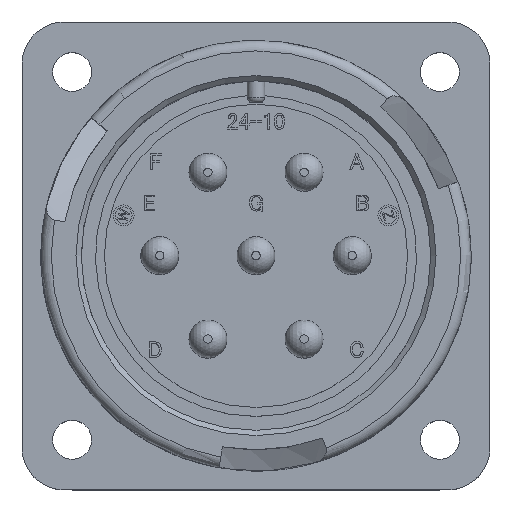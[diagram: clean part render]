
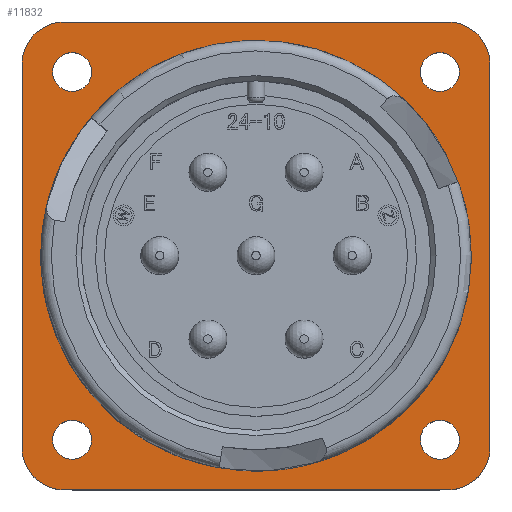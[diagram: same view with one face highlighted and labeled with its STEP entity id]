
A CAD part, top view. The second image highlights one B-rep face of the part: STEP entity #11832.
In plain terms, the highlighted planar face has unit normal (0, 0, 1).
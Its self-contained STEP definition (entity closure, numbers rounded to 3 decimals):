
#3 = FACE_BOUND ( 'NONE', #6910, .T. ) ;
#346 = CIRCLE ( 'NONE', #14573, 1.85 ) ;
#501 = LINE ( 'NONE', #6960, #10947 ) ;
#613 = FACE_BOUND ( 'NONE', #7057, .T. ) ;
#938 = AXIS2_PLACEMENT_3D ( 'NONE', #10465, #12456, #10556 ) ;
#1141 = ORIENTED_EDGE ( 'NONE', *, *, #6772, .F. ) ;
#1646 = VERTEX_POINT ( 'NONE', #9785 ) ;
#1664 = AXIS2_PLACEMENT_3D ( 'NONE', #13479, #18952, #17066 ) ;
#1727 = EDGE_CURVE ( 'NONE', #16201, #23448, #14136, .T. ) ;
#1795 = ORIENTED_EDGE ( 'NONE', *, *, #22677, .F. ) ;
#2254 = ORIENTED_EDGE ( 'NONE', *, *, #16764, .F. ) ;
#2387 = DIRECTION ( 'NONE',  ( 0., 0., -1. ) ) ;
#2470 = CARTESIAN_POINT ( 'NONE',  ( -17.465, -17.465, -20.8 ) ) ;
#2557 = LINE ( 'NONE', #18801, #6243 ) ;
#2987 = EDGE_CURVE ( 'NONE', #18734, #16201, #10078, .T. ) ;
#3077 = CARTESIAN_POINT ( 'NONE',  ( -18.225, -22.225, -20.8 ) ) ;
#3166 = CIRCLE ( 'NONE', #21993, 1.85 ) ;
#3573 = DIRECTION ( 'NONE',  ( -1., 0., 0. ) ) ;
#3741 = LINE ( 'NONE', #6941, #4076 ) ;
#4076 = VECTOR ( 'NONE', #24672, 1000. ) ;
#4189 = CIRCLE ( 'NONE', #24416, 1.85 ) ;
#4319 = CARTESIAN_POINT ( 'NONE',  ( 18.225, 22.225, -20.8 ) ) ;
#4325 = DIRECTION ( 'NONE',  ( -1., 0., 0. ) ) ;
#4597 = EDGE_LOOP ( 'NONE', ( #17977, #25464, #7663, #8265, #20303, #11459, #1141, #8194 ) ) ;
#4731 = CARTESIAN_POINT ( 'NONE',  ( -19.315, 17.465, -20.8 ) ) ;
#4780 = EDGE_CURVE ( 'NONE', #10850, #19845, #501, .T. ) ;
#5013 = VERTEX_POINT ( 'NONE', #18022 ) ;
#5049 = EDGE_CURVE ( 'NONE', #13835, #18047, #22316, .T. ) ;
#5846 = FACE_BOUND ( 'NONE', #23379, .T. ) ;
#6243 = VECTOR ( 'NONE', #8825, 1000. ) ;
#6284 = DIRECTION ( 'NONE',  ( 0., 0., 1. ) ) ;
#6459 = CARTESIAN_POINT ( 'NONE',  ( 18.225, 18.225, -20.8 ) ) ;
#6529 = CARTESIAN_POINT ( 'NONE',  ( -20.45, 0., -20.8 ) ) ;
#6772 = EDGE_CURVE ( 'NONE', #12461, #10850, #15792, .T. ) ;
#6861 = CIRCLE ( 'NONE', #13485, 20.45 ) ;
#6910 = EDGE_LOOP ( 'NONE', ( #14525 ) ) ;
#6937 = CIRCLE ( 'NONE', #1664, 4. ) ;
#6941 = CARTESIAN_POINT ( 'NONE',  ( 22.225, 18.225, -20.8 ) ) ;
#6960 = CARTESIAN_POINT ( 'NONE',  ( 18.225, -22.225, -20.8 ) ) ;
#7057 = EDGE_LOOP ( 'NONE', ( #14261 ) ) ;
#7197 = DIRECTION ( 'NONE',  ( 0., 0., 1. ) ) ;
#7249 = VERTEX_POINT ( 'NONE', #6529 ) ;
#7266 = AXIS2_PLACEMENT_3D ( 'NONE', #18124, #14371, #8345 ) ;
#7663 = ORIENTED_EDGE ( 'NONE', *, *, #1727, .F. ) ;
#8011 = DIRECTION ( 'NONE',  ( 0., 1., 0. ) ) ;
#8124 = DIRECTION ( 'NONE',  ( -1., 0., 0. ) ) ;
#8161 = CARTESIAN_POINT ( 'NONE',  ( 17.465, -17.465, -20.8 ) ) ;
#8194 = ORIENTED_EDGE ( 'NONE', *, *, #21781, .F. ) ;
#8265 = ORIENTED_EDGE ( 'NONE', *, *, #2987, .F. ) ;
#8345 = DIRECTION ( 'NONE',  ( 1., 0., 0. ) ) ;
#8498 = DIRECTION ( 'NONE',  ( 0., 0., -1. ) ) ;
#8825 = DIRECTION ( 'NONE',  ( 1., 0., 0. ) ) ;
#9518 = FACE_BOUND ( 'NONE', #10626, .T. ) ;
#9770 = DIRECTION ( 'NONE',  ( -1., 0., 0. ) ) ;
#9785 = CARTESIAN_POINT ( 'NONE',  ( 19.315, 17.465, -20.8 ) ) ;
#10078 = LINE ( 'NONE', #21614, #24242 ) ;
#10197 = DIRECTION ( 'NONE',  ( 0., 0., 1. ) ) ;
#10465 = CARTESIAN_POINT ( 'NONE',  ( -18.225, 18.225, -20.8 ) ) ;
#10556 = DIRECTION ( 'NONE',  ( 1., 0., 0. ) ) ;
#10626 = EDGE_LOOP ( 'NONE', ( #2254 ) ) ;
#10717 = CARTESIAN_POINT ( 'NONE',  ( 18.225, -22.225, -20.8 ) ) ;
#10811 = DIRECTION ( 'NONE',  ( -1., 0., 0. ) ) ;
#10850 = VERTEX_POINT ( 'NONE', #10717 ) ;
#10947 = VECTOR ( 'NONE', #10811, 1000. ) ;
#11002 = EDGE_CURVE ( 'NONE', #19845, #18734, #6937, .T. ) ;
#11204 = EDGE_CURVE ( 'NONE', #5013, #5013, #4189, .T. ) ;
#11459 = ORIENTED_EDGE ( 'NONE', *, *, #4780, .F. ) ;
#11743 = EDGE_CURVE ( 'NONE', #1646, #1646, #12306, .T. ) ;
#11771 = CARTESIAN_POINT ( 'NONE',  ( 0., 0., -20.8 ) ) ;
#11832 = ADVANCED_FACE ( 'NONE', ( #5846, #3, #9518, #613, #14771, #15676 ), #16081, .F. ) ;
#12306 = CIRCLE ( 'NONE', #7266, 1.85 ) ;
#12456 = DIRECTION ( 'NONE',  ( 0., 0., -1. ) ) ;
#12461 = VERTEX_POINT ( 'NONE', #25398 ) ;
#12529 = AXIS2_PLACEMENT_3D ( 'NONE', #6459, #8498, #24272 ) ;
#13479 = CARTESIAN_POINT ( 'NONE',  ( -18.225, -18.225, -20.8 ) ) ;
#13485 = AXIS2_PLACEMENT_3D ( 'NONE', #11771, #17411, #9770 ) ;
#13835 = VERTEX_POINT ( 'NONE', #4319 ) ;
#14007 = VERTEX_POINT ( 'NONE', #14437 ) ;
#14136 = CIRCLE ( 'NONE', #938, 4. ) ;
#14235 = VERTEX_POINT ( 'NONE', #4731 ) ;
#14261 = ORIENTED_EDGE ( 'NONE', *, *, #11743, .F. ) ;
#14371 = DIRECTION ( 'NONE',  ( 0., 0., 1. ) ) ;
#14437 = CARTESIAN_POINT ( 'NONE',  ( 15.615, -17.465, -20.8 ) ) ;
#14525 = ORIENTED_EDGE ( 'NONE', *, *, #21053, .F. ) ;
#14573 = AXIS2_PLACEMENT_3D ( 'NONE', #15333, #7197, #3573 ) ;
#14771 = FACE_BOUND ( 'NONE', #18804, .T. ) ;
#14969 = DIRECTION ( 'NONE',  ( 0., 0., -1. ) ) ;
#15333 = CARTESIAN_POINT ( 'NONE',  ( -17.465, 17.465, -20.8 ) ) ;
#15676 = FACE_OUTER_BOUND ( 'NONE', #4597, .T. ) ;
#15792 = CIRCLE ( 'NONE', #22032, 4. ) ;
#16081 = PLANE ( 'NONE',  #12529 ) ;
#16201 = VERTEX_POINT ( 'NONE', #24777 ) ;
#16422 = AXIS2_PLACEMENT_3D ( 'NONE', #19978, #2387, #8124 ) ;
#16764 = EDGE_CURVE ( 'NONE', #14235, #14235, #346, .T. ) ;
#17066 = DIRECTION ( 'NONE',  ( -1., 0., 0. ) ) ;
#17411 = DIRECTION ( 'NONE',  ( 0., 0., 1. ) ) ;
#17977 = ORIENTED_EDGE ( 'NONE', *, *, #5049, .F. ) ;
#18022 = CARTESIAN_POINT ( 'NONE',  ( -15.615, -17.465, -20.8 ) ) ;
#18047 = VERTEX_POINT ( 'NONE', #19104 ) ;
#18124 = CARTESIAN_POINT ( 'NONE',  ( 17.465, 17.465, -20.8 ) ) ;
#18734 = VERTEX_POINT ( 'NONE', #22603 ) ;
#18801 = CARTESIAN_POINT ( 'NONE',  ( 18.225, 22.225, -20.8 ) ) ;
#18804 = EDGE_LOOP ( 'NONE', ( #1795 ) ) ;
#18952 = DIRECTION ( 'NONE',  ( 0., 0., -1. ) ) ;
#19104 = CARTESIAN_POINT ( 'NONE',  ( 22.225, 18.225, -20.8 ) ) ;
#19585 = ORIENTED_EDGE ( 'NONE', *, *, #11204, .F. ) ;
#19845 = VERTEX_POINT ( 'NONE', #3077 ) ;
#19978 = CARTESIAN_POINT ( 'NONE',  ( 18.225, 18.225, -20.8 ) ) ;
#20303 = ORIENTED_EDGE ( 'NONE', *, *, #11002, .F. ) ;
#21053 = EDGE_CURVE ( 'NONE', #14007, #14007, #3166, .T. ) ;
#21614 = CARTESIAN_POINT ( 'NONE',  ( -22.225, 18.225, -20.8 ) ) ;
#21781 = EDGE_CURVE ( 'NONE', #18047, #12461, #3741, .T. ) ;
#21883 = DIRECTION ( 'NONE',  ( 1., 0., 0. ) ) ;
#21993 = AXIS2_PLACEMENT_3D ( 'NONE', #8161, #6284, #4325 ) ;
#22032 = AXIS2_PLACEMENT_3D ( 'NONE', #24967, #14969, #22782 ) ;
#22316 = CIRCLE ( 'NONE', #16422, 4. ) ;
#22603 = CARTESIAN_POINT ( 'NONE',  ( -22.225, -18.225, -20.8 ) ) ;
#22677 = EDGE_CURVE ( 'NONE', #7249, #7249, #6861, .T. ) ;
#22782 = DIRECTION ( 'NONE',  ( -1., 0., 0. ) ) ;
#23379 = EDGE_LOOP ( 'NONE', ( #19585 ) ) ;
#23430 = EDGE_CURVE ( 'NONE', #23448, #13835, #2557, .T. ) ;
#23448 = VERTEX_POINT ( 'NONE', #24699 ) ;
#24242 = VECTOR ( 'NONE', #8011, 1000. ) ;
#24272 = DIRECTION ( 'NONE',  ( -1., 0., 0. ) ) ;
#24416 = AXIS2_PLACEMENT_3D ( 'NONE', #2470, #10197, #21883 ) ;
#24672 = DIRECTION ( 'NONE',  ( 0., -1., 0. ) ) ;
#24699 = CARTESIAN_POINT ( 'NONE',  ( -18.225, 22.225, -20.8 ) ) ;
#24777 = CARTESIAN_POINT ( 'NONE',  ( -22.225, 18.225, -20.8 ) ) ;
#24967 = CARTESIAN_POINT ( 'NONE',  ( 18.225, -18.225, -20.8 ) ) ;
#25398 = CARTESIAN_POINT ( 'NONE',  ( 22.225, -18.225, -20.8 ) ) ;
#25464 = ORIENTED_EDGE ( 'NONE', *, *, #23430, .F. ) ;
